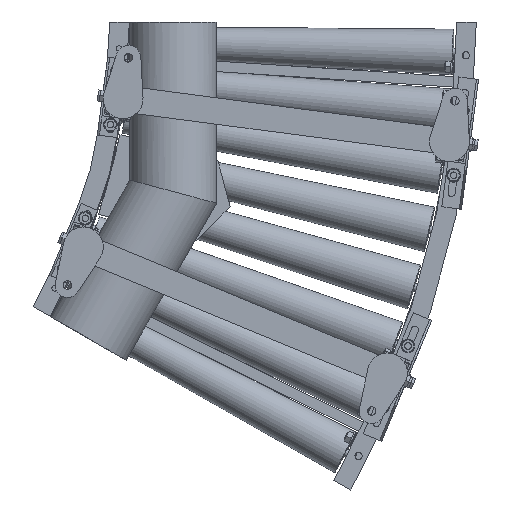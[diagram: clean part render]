
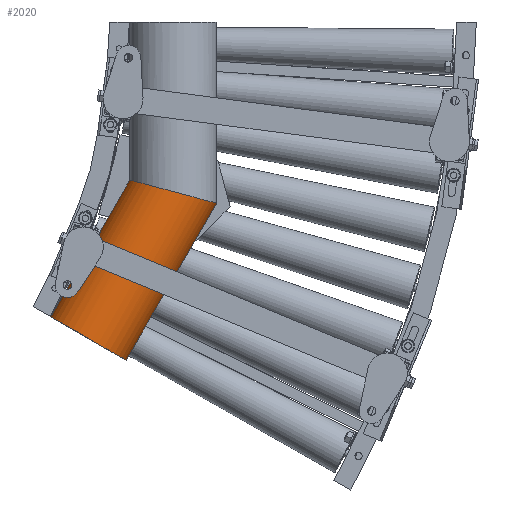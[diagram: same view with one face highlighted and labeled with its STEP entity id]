
A CAD part, front view. The second image highlights one B-rep face of the part: STEP entity #2020.
In plain terms, the highlighted cylindrical face has radius 67.024 mm (diameter 134.048 mm), a partial arc.
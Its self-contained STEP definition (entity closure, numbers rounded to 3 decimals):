
#2020=ADVANCED_FACE('',(#12289),#12288,.T.);
#12288=CYLINDRICAL_SURFACE('',#29420,67.024);
#12289=FACE_OUTER_BOUND('',#29421,.T.);
#29417=CARTESIAN_POINT('',(975.883,-156.676,-243.722));
#29418=DIRECTION('',(0.5,0.,0.866));
#29419=DIRECTION('',(0.866,0.,-0.5));
#29420=AXIS2_PLACEMENT_3D('',#29417,#29418,#29419);
#29421=EDGE_LOOP('',(#39909,#39910,#39911,#39912));
#39909=ORIENTED_EDGE('',*,*,#48033,.T.);
#39910=ORIENTED_EDGE('',*,*,#48034,.T.);
#39911=ORIENTED_EDGE('',*,*,#48035,.T.);
#39912=ORIENTED_EDGE('',*,*,#48028,.F.);
#48028=EDGE_CURVE('',#64720,#64727,#64728,.T.);
#48033=EDGE_CURVE('',#64720,#64760,#64761,.T.);
#48034=EDGE_CURVE('',#64760,#64767,#64768,.T.);
#48035=EDGE_CURVE('',#64767,#64727,#64774,.T.);
#64720=VERTEX_POINT('',#94188);
#64727=VERTEX_POINT('',#94192);
#64728=LINE('',#94193,#94194);
#64760=VERTEX_POINT('',#94210);
#64761=(BOUNDED_CURVE() B_SPLINE_CURVE(2,(#94211,#94212,#94213,#94214,#94215),.UNSPECIFIED.,.F.,.F.) B_SPLINE_CURVE_WITH_KNOTS((3,2,3),(0.147,1.571,2.994),.UNSPECIFIED.) CURVE() GEOMETRIC_REPRESENTATION_ITEM() RATIONAL_B_SPLINE_CURVE((1.,0.757,1.,0.757,1.)) REPRESENTATION_ITEM('') );
#64767=VERTEX_POINT('',#94216);
#64768=LINE('',#94217,#94218);
#64774=CIRCLE('',#94223,67.024);
#94188=CARTESIAN_POINT('',(1033.3,-166.5,-276.872));
#94192=CARTESIAN_POINT('',(894.864,-166.5,-516.65));
#94193=CARTESIAN_POINT('',(1033.3,-166.5,-276.872));
#94194=VECTOR('',#94195,276.872);
#94195=DIRECTION('',(-0.5,0.,-0.866));
#94210=CARTESIAN_POINT('',(900.7,-166.5,-241.342));
#94211=CARTESIAN_POINT('',(1033.3,-166.5,-276.872));
#94212=CARTESIAN_POINT('',(1024.825,-223.7,-274.601));
#94213=CARTESIAN_POINT('',(967.,-223.7,-259.107));
#94214=CARTESIAN_POINT('',(909.175,-223.7,-243.613));
#94215=CARTESIAN_POINT('',(900.7,-166.5,-241.342));
#94216=CARTESIAN_POINT('',(780.029,-166.5,-450.35));
#94217=CARTESIAN_POINT('',(900.7,-166.5,-241.342));
#94218=VECTOR('',#94219,241.342);
#94219=DIRECTION('',(-0.5,0.,-0.866));
#94220=CARTESIAN_POINT('',(837.447,-156.676,-483.5));
#94221=DIRECTION('',(0.5,0.,0.866));
#94222=DIRECTION('',(-0.866,0.,0.5));
#94223=AXIS2_PLACEMENT_3D('',#94220,#94221,#94222);
